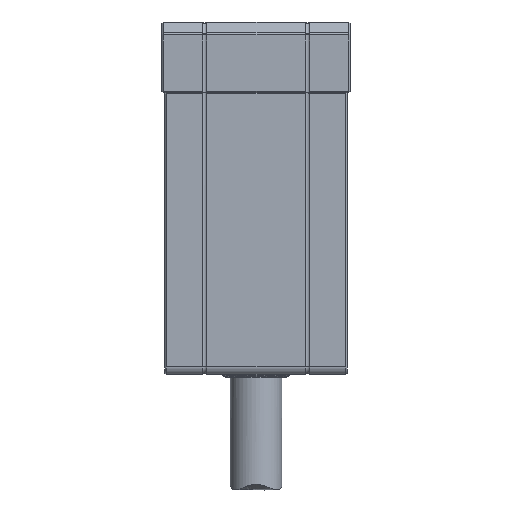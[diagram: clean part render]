
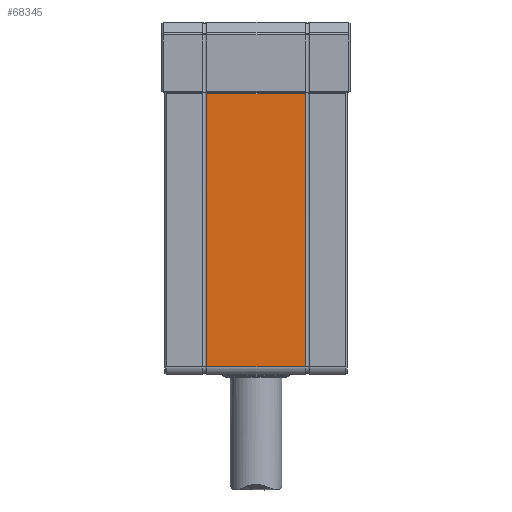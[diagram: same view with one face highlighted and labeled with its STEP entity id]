
A CAD part, left-side view. The second image highlights one B-rep face of the part: STEP entity #68345.
In plain terms, the highlighted planar face has unit normal (-1, 0, 0).
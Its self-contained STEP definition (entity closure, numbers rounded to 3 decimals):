
#417 = AXIS2_PLACEMENT_3D ( 'NONE', #61718, #54719, #42818 ) ;
#604 = LINE ( 'NONE', #41461, #49474 ) ;
#2548 = EDGE_CURVE ( 'NONE', #69112, #50812, #54707, .T. ) ;
#7496 = CARTESIAN_POINT ( 'NONE',  ( -40., 8.36, -12.2 ) ) ;
#9663 = CARTESIAN_POINT ( 'NONE',  ( -40., -8.36, -12.2 ) ) ;
#12448 = EDGE_CURVE ( 'NONE', #29807, #50812, #36667, .T. ) ;
#21226 = DIRECTION ( 'NONE',  ( 0., 0., -1. ) ) ;
#22361 = DIRECTION ( 'NONE',  ( 0., -1., 0. ) ) ;
#23593 = CARTESIAN_POINT ( 'NONE',  ( -40., -8.36, -58.7 ) ) ;
#29807 = VERTEX_POINT ( 'NONE', #9663 ) ;
#34414 = VERTEX_POINT ( 'NONE', #7496 ) ;
#34474 = ORIENTED_EDGE ( 'NONE', *, *, #2548, .T. ) ;
#34834 = PLANE ( 'NONE',  #417 ) ;
#36667 = LINE ( 'NONE', #63592, #58697 ) ;
#40604 = EDGE_CURVE ( 'NONE', #69112, #34414, #604, .T. ) ;
#41461 = CARTESIAN_POINT ( 'NONE',  ( -40., 8.36, -58.7 ) ) ;
#42818 = DIRECTION ( 'NONE',  ( 0., 1., 0. ) ) ;
#48995 = FACE_OUTER_BOUND ( 'NONE', #60226, .T. ) ;
#49474 = VECTOR ( 'NONE', #56360, 1000. ) ;
#50812 = VERTEX_POINT ( 'NONE', #23593 ) ;
#54707 = LINE ( 'NONE', #82924, #57331 ) ;
#54719 = DIRECTION ( 'NONE',  ( -1., 0., 0. ) ) ;
#55319 = EDGE_CURVE ( 'NONE', #29807, #34414, #64660, .T. ) ;
#55369 = ORIENTED_EDGE ( 'NONE', *, *, #55319, .T. ) ;
#56360 = DIRECTION ( 'NONE',  ( 0., 0., 1. ) ) ;
#57331 = VECTOR ( 'NONE', #22361, 1000. ) ;
#58697 = VECTOR ( 'NONE', #21226, 1000. ) ;
#60226 = EDGE_LOOP ( 'NONE', ( #73392, #55369, #84987, #34474 ) ) ;
#60544 = CARTESIAN_POINT ( 'NONE',  ( -40., 8.36, -58.7 ) ) ;
#61718 = CARTESIAN_POINT ( 'NONE',  ( -40., 15.5, -60. ) ) ;
#63592 = CARTESIAN_POINT ( 'NONE',  ( -40., -8.36, -58.7 ) ) ;
#64660 = LINE ( 'NONE', #65525, #87518 ) ;
#65525 = CARTESIAN_POINT ( 'NONE',  ( -40., 15.5, -12.2 ) ) ;
#68345 = ADVANCED_FACE ( 'NONE', ( #48995 ), #34834, .T. ) ;
#69112 = VERTEX_POINT ( 'NONE', #60544 ) ;
#72144 = DIRECTION ( 'NONE',  ( 0., 1., 0. ) ) ;
#73392 = ORIENTED_EDGE ( 'NONE', *, *, #12448, .F. ) ;
#82924 = CARTESIAN_POINT ( 'NONE',  ( -40., -15.5, -58.7 ) ) ;
#84987 = ORIENTED_EDGE ( 'NONE', *, *, #40604, .F. ) ;
#87518 = VECTOR ( 'NONE', #72144, 1000. ) ;
